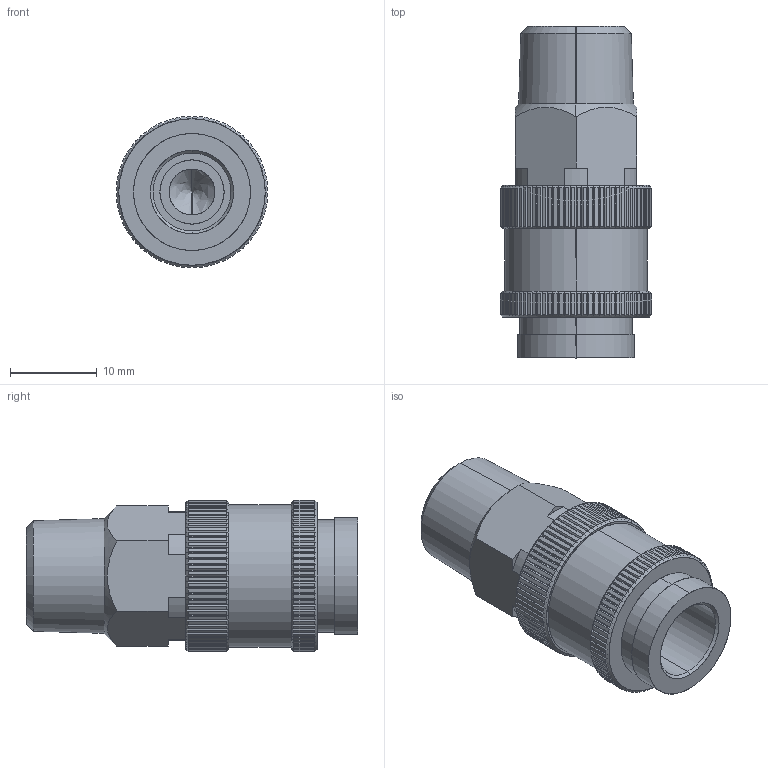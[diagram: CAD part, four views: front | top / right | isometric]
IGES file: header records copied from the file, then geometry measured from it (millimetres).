
Start section: SolidWorks IGES file using analytic representation for surfaces
Global section: file name: C:\Salvar\Planos Compartidos\Acoples Rapidos TZS\TZS-SM.IGS; native system: SolidWorks 2022; preprocessor: SolidWorks 2022; author: osval; date: 220426.125028; units: millimetre
Bounding box: 17.5 x 38.3 x 17.5 mm (x, y, z)
Surface area: 3702.8 mm2 (no closed solid volume)
Topology: 0 solids, 0 shells, 546 faces, 3862 edges, 3860 vertices
Faces by surface type: bspline 343, revolution 203
